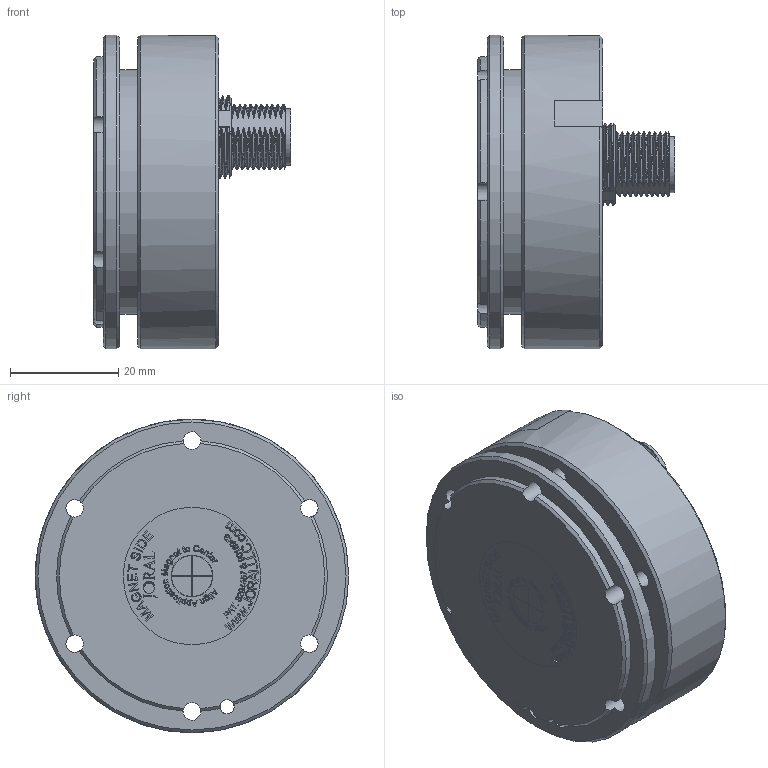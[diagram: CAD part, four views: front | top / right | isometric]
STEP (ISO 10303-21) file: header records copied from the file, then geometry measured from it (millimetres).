
FILE_DESCRIPTION(/* description */ (''),/* implementation_level */ '2;1');
FILE_NAME(/* name */ 'HP58-CUST-ASSY-M12-WRAP.step',/* time_stamp */ '2024-06-17T09:42:04-05:00',/* author */ (''),/* organization */ (''),/* preprocessor_version */ 'ST-DEVELOPER v20',/* originating_system */ 'Autodesk Translation Framework v13.14.0.145',/* authorisation */ '');
FILE_SCHEMA (('AUTOMOTIVE_DESIGN { 1 0 10303 214 3 1 1 }'));
Products named in the file (1): HP58-CUST-ASSY-M12-WRAP
Bounding box: 36.45 x 57.91 x 57.91 mm (x, y, z)
Volume: 56169.7 mm3; surface area: 13301.2 mm2
Topology: 1 solids, 1 shells, 1861 faces, 5178 edges, 3450 vertices
Faces by surface type: bspline 1016, plane 742, cylinder 77, cone 21, sphere 5
Full cylindrical faces by diameter (mm): 1 x5, 1.916 x1, 2.591 x2, 3.251 x12, 8.3 x1, 10.4 x1, 25.4 x1, 45.212 x1, 57.912 x2
Entity records: 75079 total; most frequent: CARTESIAN_POINT 34558, ORIENTED_EDGE 10346, EDGE_CURVE 5173, DIRECTION 4794, VERTEX_POINT 3450, LINE 2758, VECTOR 2758, B_SPLINE_CURVE_WITH_KNOTS 2241
